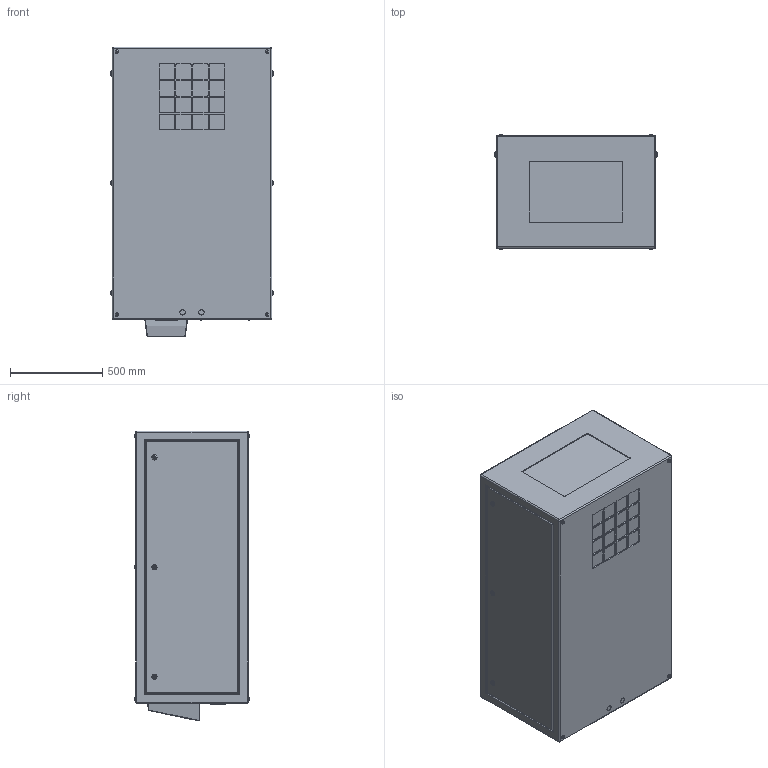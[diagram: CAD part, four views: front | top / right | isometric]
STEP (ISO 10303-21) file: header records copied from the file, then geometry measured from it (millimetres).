
FILE_DESCRIPTION (( 'STEP AP214' ), '1' );
FILE_NAME ('Cyclone 55.314.L R10.STEP', '2022-09-08T22:05:21', ( '' ), ( '' ), 'SwSTEP 2.0', 'SolidWorks 2020', '' );
FILE_SCHEMA (( 'AUTOMOTIVE_DESIGN' ));
Length unit declared in the file: inch
Products named in the file (1): Cyclone 55.314.L R10
Bounding box: 876.3 x 624.2 x 1568.45 mm (x, y, z)
Volume: 773873881.8 mm3; surface area: 5887903 mm2
Topology: 1 solids, 7 shells, 532 faces, 1256 edges, 804 vertices
Faces by surface type: plane 260, cylinder 220, torus 44, sphere 8
Entity records: 19325 total; most frequent: CARTESIAN_POINT 3129, DIRECTION 2694, ORIENTED_EDGE 2496, EDGE_CURVE 1248, AXIS2_PLACEMENT_3D 1009, VERTEX_POINT 804, VECTOR 676, LINE 676
